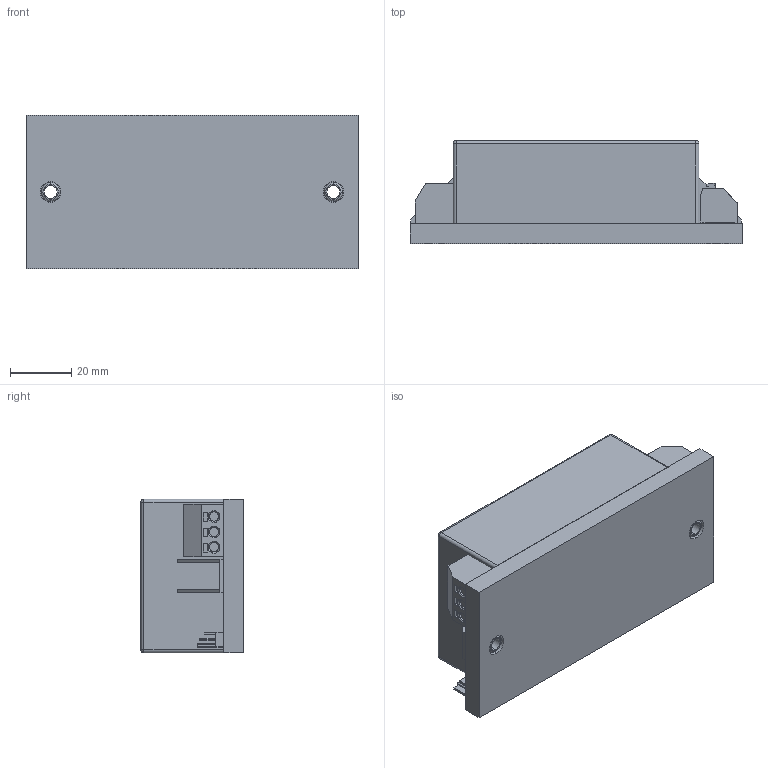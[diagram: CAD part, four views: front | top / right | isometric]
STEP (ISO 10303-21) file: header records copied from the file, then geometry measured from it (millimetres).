
FILE_DESCRIPTION (( 'STEP AP214' ), '1' );
FILE_NAME ('D-NM08-SUE.STEP', '2015-08-25T09:51:16', ( '' ), ( '' ), 'SwSTEP 2.0', 'SolidWorks 2015', '' );
FILE_SCHEMA (( 'AUTOMOTIVE_DESIGN' ));
Length unit declared in the file: millimetre
Products named in the file (30): 729720432; Extruded_4; Oberteil-gr; 729720304; Dummy-NM08-SUE; Extruded_3; X4Dummy-NM08-S; 729720176; 712504800; Extruded_2; Extruded_8; 729720048; 712504672; Extruded; Extruded_7; BoardDummy-NM08-S; 712504544; Unterteil-gr; Extruded_6; 62323928; D-NM08-SUE; Cylinder; X1Dummy-NM08-S; 253_103_2_03; Aufkleber-75x45-NM08-SUE; X5Dummy-NM08-S; 250_202_2_03; X2Dummy-NM08-S; 729720560; Extruded_5
Assembly tree (38 placements, depth 5):
  D-NM08-SUE
    Unterteil-gr
    Dummy-NM08-SUE
      BoardDummy-NM08-S
      X2Dummy-NM08-S
        729720048
          Extruded
        729720176
          Extruded_2
        729720304  x4
          Extruded_3
        729720432
          Extruded_4
        729720560  x4
          Extruded_5
      X5Dummy-NM08-S
        250_202_2_03
      X1Dummy-NM08-S
        253_103_2_03
      X4Dummy-NM08-S
        62323928  x4
          Cylinder
        712504544
          Extruded_6
        712504672
          Extruded_7
        712504800
          Extruded_8
    Oberteil-gr
    Aufkleber-75x45-NM08-SUE
Bounding box: 108 x 33.5 x 50 mm (x, y, z)
Volume: 34636.8 mm3; surface area: 57711.2 mm2
Topology: 24 solids, 24 shells, 481 faces, 1172 edges, 762 vertices
Faces by surface type: plane 330, cylinder 119, cone 16, torus 12, sphere 4
Entity records: 15398 total; most frequent: CARTESIAN_POINT 2310, DIRECTION 2296, ORIENTED_EDGE 2156, EDGE_CURVE 1078, LINE 808, VECTOR 808, AXIS2_PLACEMENT_3D 744, VERTEX_POINT 702
